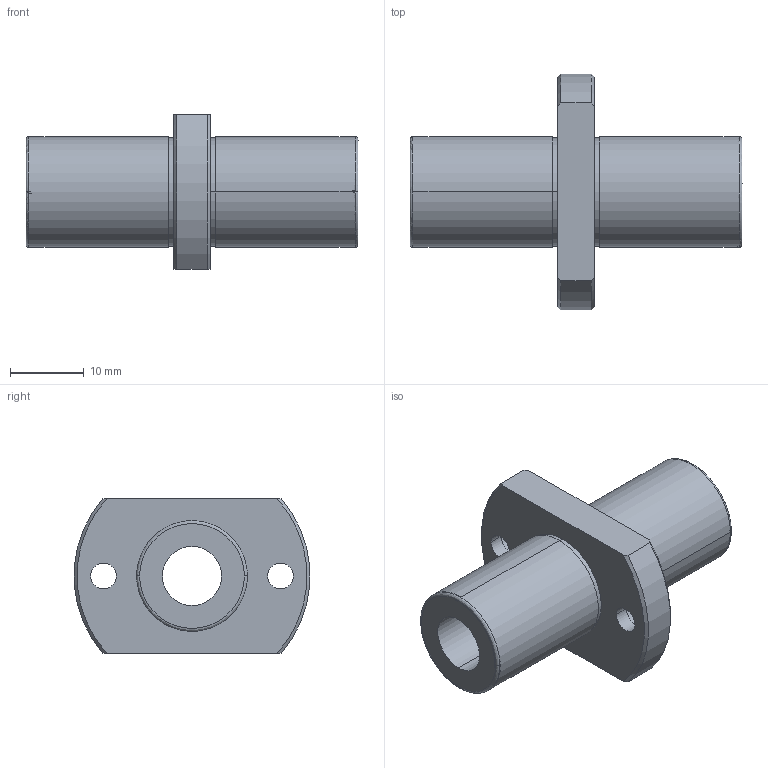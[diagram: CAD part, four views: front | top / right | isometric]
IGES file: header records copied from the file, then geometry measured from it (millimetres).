
Start section: 3D InterOp IGES (Version 21 0 1), Spatial Corp. Copyright (c) 1999-2007.
Global section: file name: NFCO-8VLUU.igs; native system: Spatial Corp.; preprocessor: 3D InterOp GENERIC/IGES 3.0; author: Noname; organization: Noname; date: 20220308.143550; units: millimetre
Bounding box: 45 x 31.9 x 21 mm (x, y, z)
Surface area: 5066.6 mm2 (no closed solid volume)
Topology: 0 solids, 0 shells, 38 faces, 184 edges, 180 vertices
Faces by surface type: revolution 28, extrusion 10
